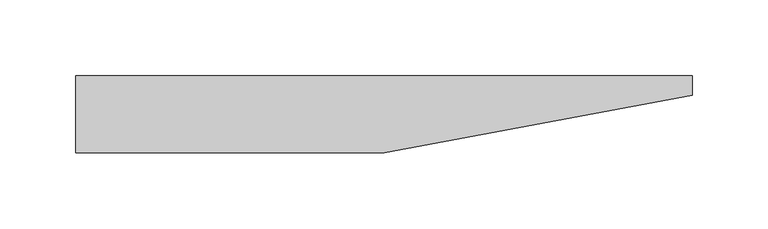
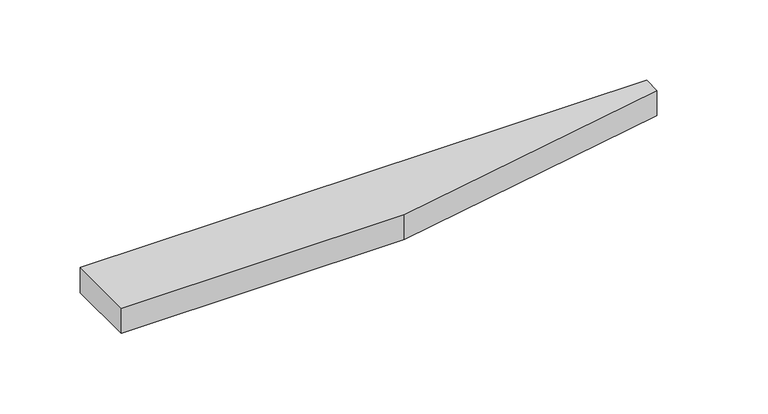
"""IFC4 building model written with IfcOpenShell, lengths in millimetres: proxy geometry, SS LIFT ANGLE_16_LT_OMT_LINAK."""

from ifc_helpers import new_model, si_unit, frame, origin, place, context, project, spatial, polyline, outline, extrude, source, transform, mapped, element, save


def generic_models_ebba18c2(model_context):
    return source(origin(), model_context, "Body", "SweptSolid", [
        extrude(outline(polyline([(406.4, 0.0), (406.4, -12.7), (203.2, -50.8), (0.0, -50.8), (0.0, 0.0), (406.4, 0.0)])), frame((0.0, 0.0, -19.05), z_axis=(0.0, 0.0, 1.0), x_axis=(1.0, 0.0, 0.0)), (0.0, 0.0, 1.0), 19.05),
    ])


if __name__ == "__main__":
    model = new_model("IFC4")
    model_context = context("Model", 3, world=origin())
    ifc_project = project(units=[si_unit("LENGTHUNIT", "METRE", prefix="MILLI")], contexts=[model_context])
    site = spatial("IfcSite", under=ifc_project)
    building = spatial("IfcBuilding", under=site)
    placement = place(None, origin())
    generic_models_shape = generic_models_ebba18c2(model_context)
    element("IfcBuildingElementProxy", 1, Name="SS LIFT ANGLE_16_LT_OMT_LINAK", ObjectType="SS LIFT ANGLE_16_LT_OMT_LINAK", at=placement, inside=building, context=model_context, shape_type="MappedRepresentation", body=[
        mapped(generic_models_shape, transform((0.0, 0.0, 0.0), x_axis=(1.0, 0.0, 0.0), y_axis=(0.0, 1.0, 0.0), z_axis=(0.0, 0.0, 1.0))),
    ])
    save(model, "model.ifc")
